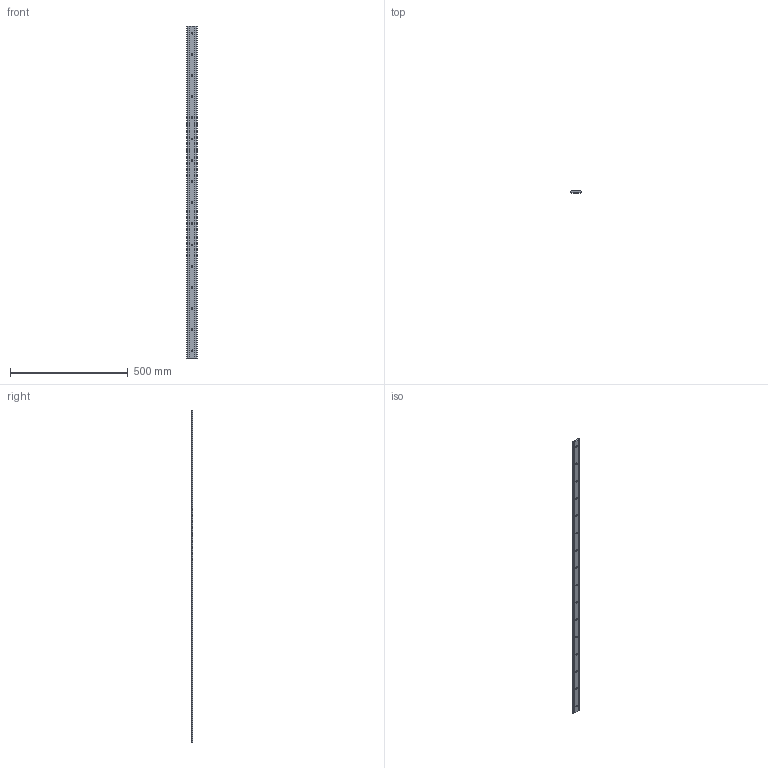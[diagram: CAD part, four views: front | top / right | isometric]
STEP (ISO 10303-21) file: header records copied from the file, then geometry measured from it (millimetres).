
FILE_DESCRIPTION(('STEP AP203'),'1');
FILE_NAME('//192.168.1.1/share/s-4 技術開発/s-4-4_CAD/s-4-4-6_見直し、確認済み/014 修正済み(済)/GF_TOP/GF-44C-1410.step','2022-03-14T01:07:14',(' '),(' '),'Spatial InterOp 3D',' ',' ');
FILE_SCHEMA(('CONFIG_CONTROL_DESIGN'));
Length unit declared in the file: millimetre
Products named in the file (1): 1
Bounding box: 44.79 x 6.42 x 1410 mm (x, y, z)
Volume: 365057 mm3; surface area: 137022.6 mm2
Topology: 1 solids, 1 shells, 66 faces, 208 edges, 144 vertices
Faces by surface type: cone 32, cylinder 20, plane 14
Full cylindrical faces by diameter (mm): 7 x16
Entity records: 1788 total; most frequent: DIRECTION 318, CARTESIAN_POINT 275, ORIENTED_EDGE 224, EDGE_LOOP 146, AXIS2_PLACEMENT_3D 139, EDGE_CURVE 112, VERTEX_POINT 96, FACE_OUTER_BOUND 82
